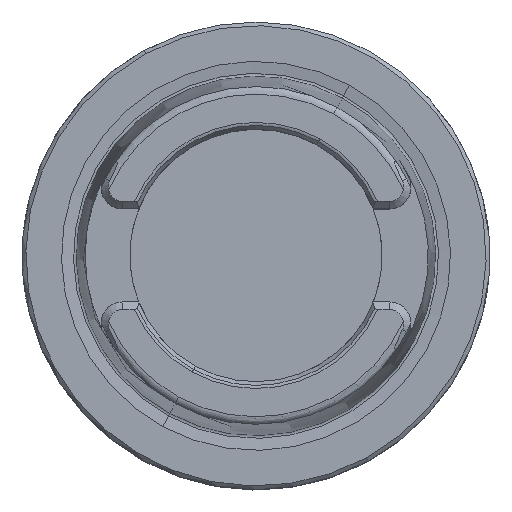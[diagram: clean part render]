
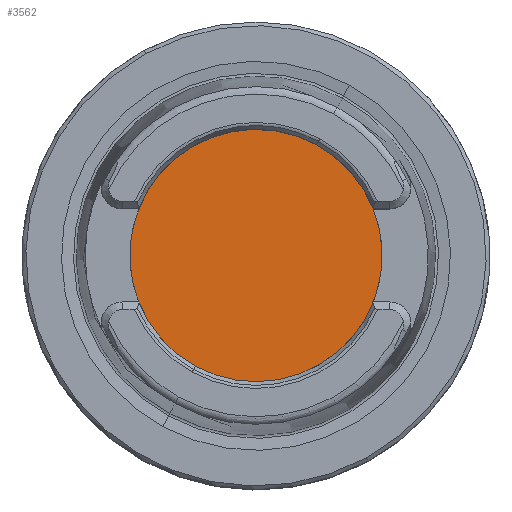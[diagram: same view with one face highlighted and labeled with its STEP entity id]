
A CAD part, top view. The second image highlights one B-rep face of the part: STEP entity #3562.
In plain terms, the highlighted planar face has unit normal (0, 0, 1).
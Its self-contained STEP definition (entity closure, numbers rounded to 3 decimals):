
#3542=AXIS2_PLACEMENT_3D('Plane Axis2P3D',#3539,#3540,#3541) ;
#3546=AXIS2_PLACEMENT_3D('Circle Axis2P3D',#3544,#3545,$) ;
#3555=AXIS2_PLACEMENT_3D('Circle Axis2P3D',#3553,#3554,$) ;
#3539=CARTESIAN_POINT('Axis2P3D Location',(0.,-15.75,20.)) ;
#3544=CARTESIAN_POINT('Axis2P3D Location',(0.,0.,20.)) ;
#3548=CARTESIAN_POINT('Vertex',(-8.15,-14.919,20.)) ;
#3550=CARTESIAN_POINT('Vertex',(8.15,14.919,20.)) ;
#3553=CARTESIAN_POINT('Axis2P3D Location',(0.,0.,20.)) ;
#3540=DIRECTION('Axis2P3D Direction',(0.,0.,-1.)) ;
#3541=DIRECTION('Axis2P3D XDirection',(-1.,0.,0.)) ;
#3545=DIRECTION('Axis2P3D Direction',(0.,0.,-1.)) ;
#3554=DIRECTION('Axis2P3D Direction',(0.,0.,-1.)) ;
#3559=ORIENTED_EDGE('',*,*,#3552,.T.) ;
#3560=ORIENTED_EDGE('',*,*,#3557,.T.) ;
#3562=ADVANCED_FACE('NO_CUT',(#3561),#3543,.F.) ;
#3547=CIRCLE('generated circle',#3546,17.) ;
#3556=CIRCLE('generated circle',#3555,17.) ;
#3552=EDGE_CURVE('',#3549,#3551,#3547,.F.) ;
#3557=EDGE_CURVE('',#3551,#3549,#3556,.F.) ;
#3558=EDGE_LOOP('',(#3559,#3560)) ;
#3561=FACE_OUTER_BOUND('',#3558,.T.) ;
#3543=PLANE('',#3542) ;
#3549=VERTEX_POINT('',#3548) ;
#3551=VERTEX_POINT('',#3550) ;
